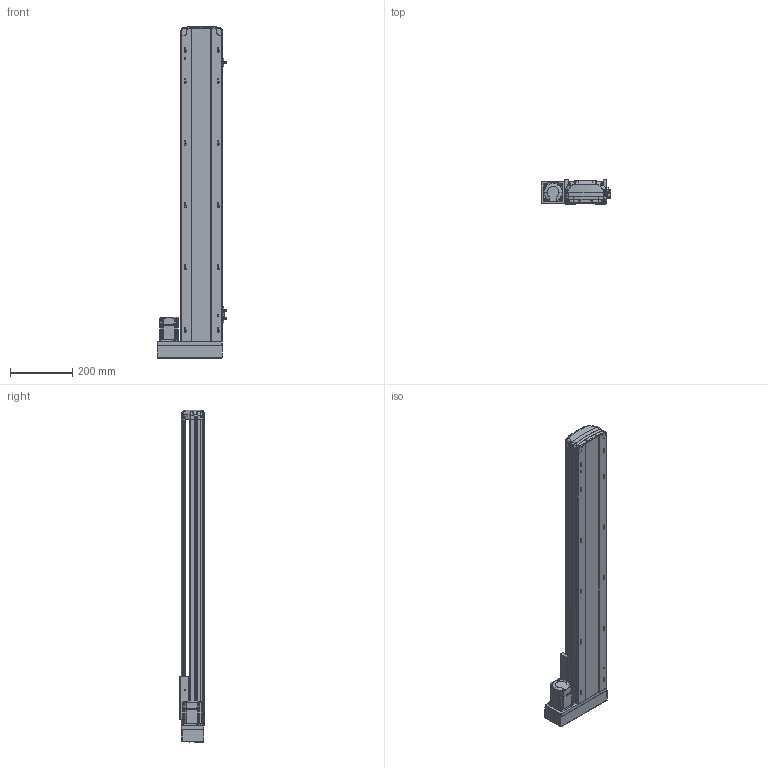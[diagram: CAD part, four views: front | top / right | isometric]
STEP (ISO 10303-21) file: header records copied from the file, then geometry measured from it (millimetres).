
FILE_DESCRIPTION (( 'STEP AP214' ), '1' );
FILE_NAME ('RTH14-XX-800-L-M20-C4.STEP', '2025-10-25T02:40:05', ( 'Microsoft' ), ( 'Microsoft' ), 'SwSTEP 2.0', 'SolidWorks 2018', '' );
FILE_SCHEMA (( 'AUTOMOTIVE_DESIGN' ));
Length unit declared in the file: millimetre
Products named in the file (10): N_RTH13-L-008-P20 萇儂啣酘蛌殏^RTH14-XX-XX-L-M20-C4; RTH14-XX-800-L-M20-C4; N_MSMD022P1AA_200W^RTH14-XX-XX-L-M20-C4; N_RTH14-M-011P菁釱^RTH14-XX-XX-L-M20-C4; N_RTH14-GY-001P^RTH14-XX-XX-L-M20-C4; N_OMRON EE-SX672 传感器^RTH14-XX-XX-L-M20-C4; N_RTH14-R-004-SFSR16賑釱^RTH14-XX-XX-L-M20-C4; N_RTH14-M-007P奻裔^RTH14-XX-XX-L-M20-C4; N_RTH13-L-018 裔赽^RTH14-XX-XX-L-M20-C4; N_RTH13-L-012感应片（外置）^RTH14-XX-XX-L-M20-C4
Assembly tree (11 placements, depth 2):
  RTH14-XX-800-L-M20-C4
    N_RTH14-M-011P菁釱^RTH14-XX-XX-L-M20-C4
    N_RTH14-M-007P奻裔^RTH14-XX-XX-L-M20-C4
    N_MSMD022P1AA_200W^RTH14-XX-XX-L-M20-C4
    N_RTH13-L-008-P20 萇儂啣酘蛌殏^RTH14-XX-XX-L-M20-C4
    N_RTH13-L-018 裔赽^RTH14-XX-XX-L-M20-C4
    N_RTH13-L-012感应片（外置）^RTH14-XX-XX-L-M20-C4
    N_OMRON EE-SX672 传感器^RTH14-XX-XX-L-M20-C4  x3
    N_RTH14-GY-001P^RTH14-XX-XX-L-M20-C4
    N_RTH14-R-004-SFSR16賑釱^RTH14-XX-XX-L-M20-C4
Bounding box: 224 x 78.03 x 1067.49 mm (x, y, z)
Volume: 4706430.4 mm3; surface area: 1091934.5 mm2
Topology: 11 solids, 11 shells, 1882 faces, 5261 edges, 3446 vertices
Faces by surface type: plane 991, cylinder 497, bspline 345, cone 45, torus 4
Entity records: 57531 total; most frequent: CARTESIAN_POINT 23131, ORIENTED_EDGE 7590, DIRECTION 6112, EDGE_CURVE 3795, VERTEX_POINT 2482, VECTOR 2168, LINE 2168, AXIS2_PLACEMENT_3D 1972
